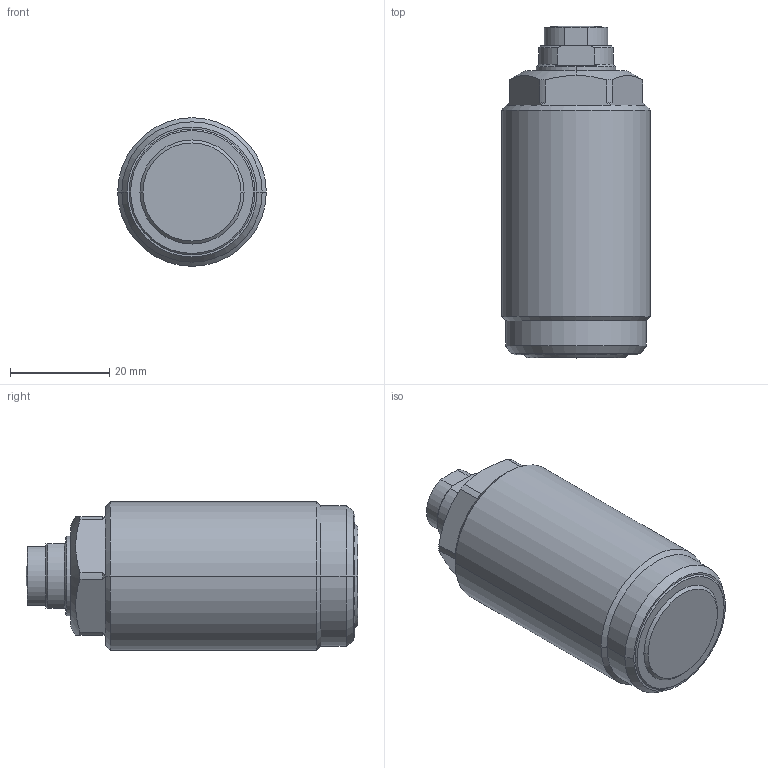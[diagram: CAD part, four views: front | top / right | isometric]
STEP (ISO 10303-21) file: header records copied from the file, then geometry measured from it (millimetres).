
FILE_DESCRIPTION(/* description */ (''),/* implementation_level */ '2;1');
FILE_NAME(/* name */ 'PGSC06-L.stp',/* time_stamp */ '2025-01-05T10:58:30+08:00',/* author */ (''),/* organization */ (''),/* preprocessor_version */ 'ST-DEVELOPER v16.7',/* originating_system */ 'SIEMENS PLM Software NX 12.0',/* authorisation */ '');
FILE_SCHEMA (('AUTOMOTIVE_DESIGN { 1 0 10303 214 3 1 1 1 }'));
Length unit declared in the file: millimetre
Products named in the file (4): PGSC06-L-3; PGSC06-L-2; PGSC06-L-1; CSW06M-L_step
Assembly tree (3 placements, depth 2):
  CSW06M-L_step
    PGSC06-L-1
    PGSC06-L-2
    PGSC06-L-3
Bounding box: 30 x 67 x 30 mm (x, y, z)
Volume: 39337.7 mm3; surface area: 8833.6 mm2
Topology: 3 solids, 3 shells, 88 faces, 202 edges, 127 vertices
Faces by surface type: cylinder 29, cone 29, plane 24, torus 4, sphere 2
Entity records: 2634 total; most frequent: CARTESIAN_POINT 513, DIRECTION 454, ORIENTED_EDGE 404, EDGE_CURVE 202, AXIS2_PLACEMENT_3D 188, VERTEX_POINT 127, EDGE_LOOP 97, CIRCLE 96
